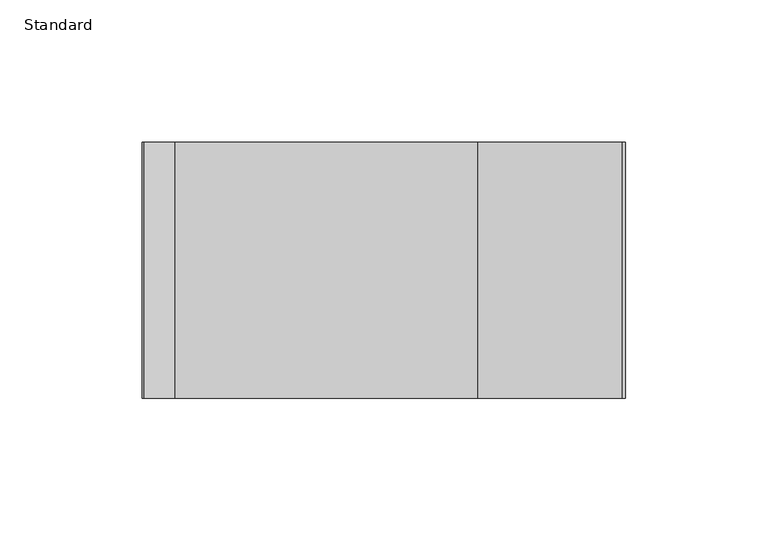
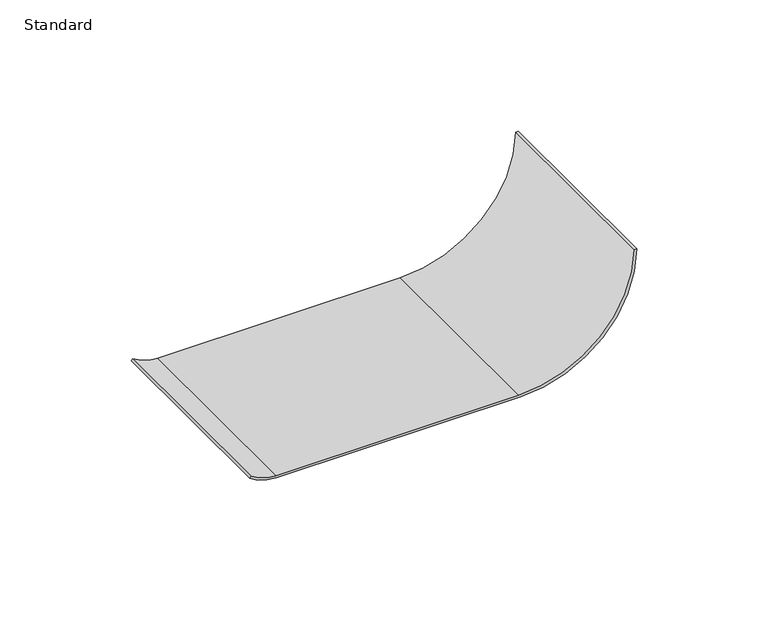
"""IFC4 building model written with IfcOpenShell, lengths in millimetres: electric appliance geometry, Waterfall-Cablofil : Standard."""

from ifc_helpers import new_model, si_unit, frame, origin, place, context, project, spatial, polyline, circle_curve, source, transform, mapped, element, save
from ifc_brep_helpers import plane_surface, cylinder_surface, revolved_surface, advanced_brep


def standard_b50ad245(model_context):
    return source(origin(), model_context, "Body", "AdvancedBrep", [
        advanced_brep(
        [(56.1936227, 45.0, -3.7130586), (-51.2371645, 45.0, -3.7130586), (-62.894089, 45.0, 0.0562573), (-62.3155468, 45.0, 0.8594782), (-51.2371645, 45.0, -2.7176202), (55.2030224, 45.0, -2.74481), (105.9938828, 45.0, 47.0916), (106.9936224, 45.0, 47.0916), (56.1936227, -45.0, -3.7130586), (106.9936224, -45.0, 47.0916), (105.9938828, -45.0, 47.0916), (55.2030224, -45.0, -2.74481), (-51.2371645, -45.0, -2.74481), (-62.3155468, -45.0, 0.8594782), (-62.894089, -45.0, 0.0562573), (-51.2371645, -45.0, -3.7130586)],
        [
            (0, 1),
            (1, 2, circle_curve(frame((-51.2371645, 45.0, 16.196606), z_axis=(0.0, 1.0, 0.0), x_axis=(1.0, 0.0, 0.0)), 19.9096646)),
            (2, 3),
            (3, 4, circle_curve(frame((-51.2371645, 45.0, 16.2259723), z_axis=(0.0, -1.0, 0.0), x_axis=(1.0, 0.0, 0.0)), 18.9435925)),
            (4, 5),
            (5, 6, circle_curve(frame((55.2030224, 45.0, 48.05519), z_axis=(0.0, -1.0, 0.0), x_axis=(1.0, 0.0, 0.0)), 50.8)),
            (6, 7),
            (7, 0, circle_curve(frame((56.1936227, 45.0, 47.0869414), z_axis=(0.0, 1.0, 0.0), x_axis=(1.0, 0.0, 0.0)), 50.8)),
            (8, 9, circle_curve(frame((56.1936227, -45.0, 47.0869414), z_axis=(0.0, -1.0, 0.0), x_axis=(1.0, 0.0, 0.0)), 50.8)),
            (9, 10),
            (10, 11, circle_curve(frame((55.2030224, -45.0, 48.05519), z_axis=(0.0, 1.0, 0.0), x_axis=(1.0, 0.0, 0.0)), 50.8)),
            (11, 12),
            (12, 13, circle_curve(frame((-51.2371645, -45.0, 16.2259723), z_axis=(0.0, 1.0, 0.0), x_axis=(1.0, 0.0, 0.0)), 18.9435925)),
            (13, 14),
            (14, 15, circle_curve(frame((-51.2371645, -45.0, 16.196606), z_axis=(0.0, -1.0, 0.0), x_axis=(1.0, 0.0, 0.0)), 19.9096646)),
            (15, 8),
            (0, 8),
            (15, 1),
            (7, 9),
            (6, 10),
            (5, 11),
            (4, 12),
            (14, 2),
            (13, 3),
        ],
        [
            plane_surface(frame((-52.8131635, 45.0, -3.7130586), z_axis=(0.0, 1.0, 0.0), x_axis=(-1.0, 0.0, 0.0))),
            plane_surface(frame((-52.8131635, -45.0, -3.7130586), z_axis=(0.0, -1.0, 0.0), x_axis=(1.0, 0.0, 0.0))),
            plane_surface(frame((56.1936227, 45.0, -3.7130586), z_axis=(0.0, 0.0, -1.0), x_axis=(0.0, -1.0, 0.0))),
            cylinder_surface(frame((56.1936227, -45.0, 47.0869414), z_axis=(0.0, 1.0, 0.0), x_axis=(1.0, 0.0, 0.0)), 50.8),
            plane_surface(frame((105.9938828, 45.0, 47.0916), z_axis=(0.0, 0.0, 1.0), x_axis=(0.0, -1.0, 0.0))),
            revolved_surface(polyline([(106.00302239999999, -45.0, 48.05519), (106.00302239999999, 45.0, 48.05519)]), (55.2030224, -45.0, 48.05519), (0.0, -1.0, 0.0)),
            plane_surface(frame((-51.2371645, 45.0, -2.74481), z_axis=(0.0, 0.0, 1.0), x_axis=(0.0, -1.0, 0.0))),
            cylinder_surface(frame((-51.2371645, -45.0, 16.196606), z_axis=(0.0, 1.0, 0.0), x_axis=(1.0, 0.0, 0.0)), 19.9096646),
            plane_surface(frame((-62.894089, 45.0, 0.0562573), z_axis=(-0.8114274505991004, 0.0, 0.5844531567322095), x_axis=(0.0, -1.0, 0.0))),
            revolved_surface(polyline([(-32.293572, -45.0, 16.2259723), (-32.293572, 45.0, 16.2259723)]), (-51.2371645, -45.0, 16.2259723), (0.0, -1.0, 0.0)),
        ],
        [
            (0, [[1, 2, 3, 4, 5, 6, 7, 8]]),
            (1, [[9, 10, 11, 12, 13, 14, 15, 16]]),
            (2, [[-1, 17, -16, 18]]),
            (3, [[-8, 19, -9, -17]]),
            (4, [[-7, 20, -10, -19]]),
            (5, [[-6, 21, -11, -20]]),
            (6, [[-5, 22, -12, -21]]),
            (7, [[-2, -18, -15, 23]]),
            (8, [[-3, -23, -14, 24]]),
            (9, [[-4, -24, -13, -22]]),
        ],
    ),
    ])


if __name__ == "__main__":
    model = new_model("IFC4")
    model_context = context("Model", 3, world=origin())
    ifc_project = project(units=[si_unit("LENGTHUNIT", "METRE", prefix="MILLI")], contexts=[model_context])
    site = spatial("IfcSite", under=ifc_project)
    building = spatial("IfcBuilding", under=site)
    placement = place(None, origin())
    standard_shape = standard_b50ad245(model_context)
    element("IfcElectricAppliance", 1, ObjectType="Waterfall-Cablofil : Standard", at=placement, inside=building, context=model_context, shape_type="MappedRepresentation", body=[
        mapped(standard_shape, transform((0.0, 0.0, 0.0), x_axis=(1.0, 0.0, 0.0), y_axis=(0.0, 1.0, 0.0), z_axis=(0.0, 0.0, 1.0))),
    ])
    save(model, "model.ifc")
